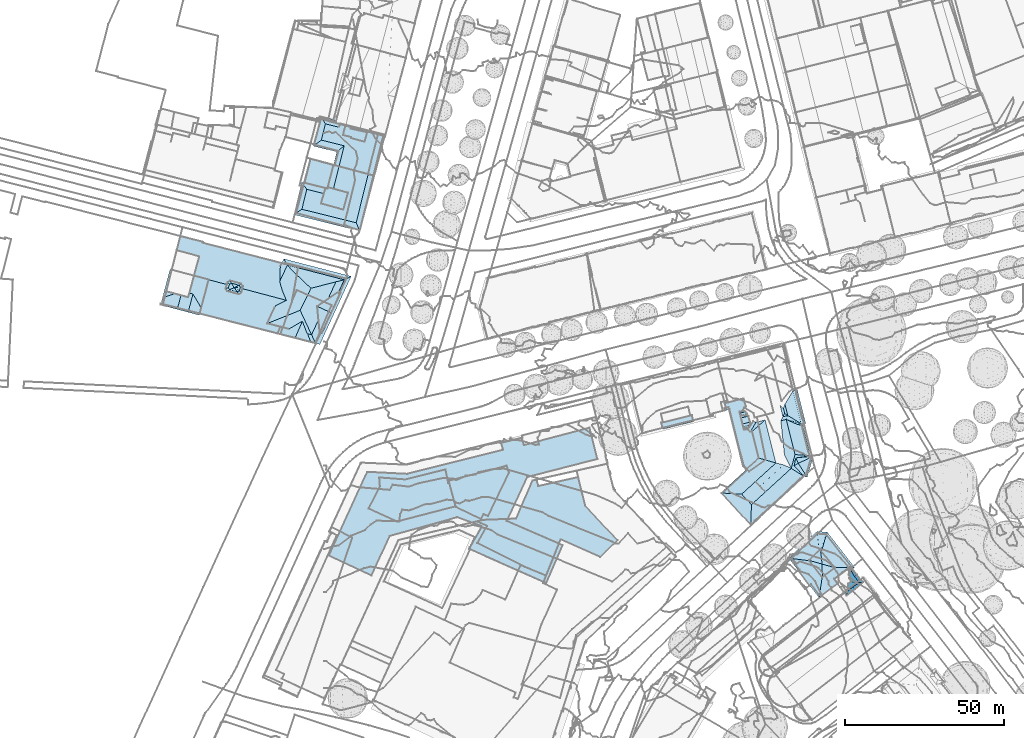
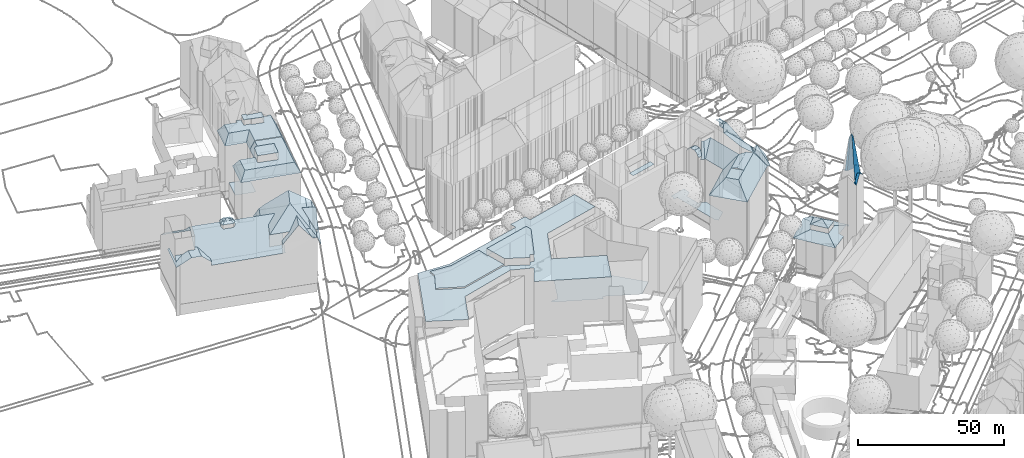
# Not in any storey, part 63 of 494: 18 roofs.
"""IFC2X3 model written with IfcOpenShell, lengths in metres."""

from ifc_helpers import new_model, si_unit, frame, origin_with_axes, place, context, subcontext, project, faceted_brep, element, save


model = new_model("IFC2X3")

# Units and contexts
model_context = context("Model", 3, precision=1e-05, world=origin_with_axes())
body_context = subcontext(model_context, "Body", "Model", "MODEL_VIEW")
ifc_project = project(units=[si_unit("AREAUNIT", "SQUARE_METRE"), si_unit("LENGTHUNIT", "METRE")], contexts=[model_context])

# Roofs
roof_1_placement = place(None, frame((-19.7342679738, 221.4617160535, 529.9572), z_axis=(0.0, 0.0, 1.0), x_axis=(1.0, 0.0, 0.0)))
element("IfcRoof", 1, at=roof_1_placement, Name="Roof 3", ShapeType="NOTDEFINED", context=body_context, shape_type="Brep", body=[
    faceted_brep([(81.6960000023, 72.4179999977, 30.7921), (81.0179999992, 74.811499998, 30.7921), (75.1140000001, 70.9530999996, 30.7921), (104.7769999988, 68.0557000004, 30.792), (102.2939999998, 77.878899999, 30.792), (57.0100000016, 64.7841999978, 30.7921), (76.2980000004, 65.9159999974, 30.7921), (82.7039999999, 62.3525999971, 30.792), (74.4360000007, 73.4091999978, 30.7921), (76.9759999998, 63.7109999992, 30.7921), (93.8509999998, 40.9062999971, 30.792), (76.2760000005, 48.5654999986, 30.792), (88.6739999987, 28.995099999, 30.792), (64.7349999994, 40.3495999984, 30.792), (70.3790000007, 50.1122999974, 30.792), (68.9609999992, 50.686499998, 30.792), (68.1649999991, 49.1210999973, 30.792), (60.7349999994, 49.7353999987, 30.7921), (68.4460000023, 46.8564999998, 30.792), (64.4039999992, 39.7743999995, 30.792), (44.868999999, 63.3554999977, 30.7921), (44.3000000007, 61.5976999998, 30.7921), (58.1950000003, 60.5790999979, 30.7921), (58.0269999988, 61.1943999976, 30.7921), (57.9120000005, 60.441399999, 30.7921), (36.1889999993, 62.2168000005, 30.7921), (32.3900000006, 64.0020000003, 30.7921), (36.4120000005, 59.4501999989, 30.7921), (32.8289999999, 52.4316999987, 30.7921), (20.3310000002, 37.6767999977, 30.7921), (60.2850000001, 52.9443999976, 30.7921), (60.2250000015, 53.1640999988, 30.7921), (41.7300000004, 48.3495999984, 30.7921), (39.4550000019, 43.8388999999, 30.7921), (33.7100000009, 31.3662, 30.7921)], [[[0, 1, 2]], [[3, 4, 0]], [[2, 5, 6]], [[7, 0, 6]], [[6, 0, 2]], [[8, 2, 1]], [[9, 7, 6]], [[7, 3, 0]], [[10, 11, 12]], [[12, 11, 13]], [[9, 11, 7]], [[14, 15, 16]], [[11, 9, 14]], [[16, 17, 18]], [[13, 11, 18]], [[16, 18, 14]], [[18, 11, 14]], [[12, 13, 19]], [[20, 21, 5]], [[2, 20, 5]], [[22, 23, 24]], [[24, 23, 5]], [[25, 26, 27]], [[25, 21, 20]], [[28, 27, 26]], [[26, 29, 28]], [[25, 20, 26]], [[30, 31, 32]], [[17, 16, 30]], [[32, 17, 30]], [[33, 29, 34]], [[33, 32, 28]], [[28, 29, 33]], [[17, 32, 33]], [[23, 6, 5]]]),
])
roof_2_placement = place(None, frame((-19.7342679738, 221.4617160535, 529.9572), z_axis=(0.0, 0.0, 1.0), x_axis=(1.0, 0.0, 0.0)))
element("IfcRoof", 2, at=roof_2_placement, Name="Roof 5", ShapeType="NOTDEFINED", context=body_context, shape_type="Brep", body=[
    faceted_brep([(36.4120000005, 59.4501999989, 31.314), (32.8289999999, 52.4316999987, 31.314), (44.3000000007, 61.5976999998, 31.314), (36.1889999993, 62.2168000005, 31.314), (57.9120000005, 60.441399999, 31.314), (41.7300000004, 48.3495999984, 31.314), (60.2250000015, 53.1640999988, 31.314), (58.1950000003, 60.5790999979, 31.314), (57.0100000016, 64.7841999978, 31.314)], [[[0, 1, 2]], [[2, 3, 0]], [[4, 1, 5]], [[4, 6, 7]], [[4, 2, 1]], [[4, 8, 2]], [[4, 5, 6]]]),
])
roof_3_placement = place(None, frame((-19.7342679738, 221.4617160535, 529.9572), z_axis=(0.0, 0.0, 1.0), x_axis=(1.0, 0.0, 0.0)))
element("IfcRoof", 3, at=roof_3_placement, Name="Roof 10", ShapeType="NOTDEFINED", context=body_context, shape_type="Brep", body=[
    faceted_brep([(76.2760000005, 48.5654000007, 12.6718), (79.2180000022, 49.3017999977, 12.6718), (76.5700000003, 49.1963, 12.6718), (92.6770000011, 41.4179999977, 12.6717), (84.3440000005, 61.2782999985, 12.6718), (86.2050000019, 59.5146999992, 12.6718), (85.7230000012, 61.5859999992, 12.6718), (93.2239999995, 42.7812999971, 12.6717), (100.9539999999, 53.3720999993, 12.6717), (105.5940000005, 37.2460999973, 12.6717), (111.1070000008, 42.5205000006, 12.6717), (98.7540000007, 62.3506000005, 12.6718)], [[[0, 1, 2]], [[1, 0, 3]], [[4, 5, 6]], [[5, 4, 1]], [[1, 7, 5]], [[8, 5, 7]], [[7, 9, 10]], [[11, 5, 8]], [[10, 8, 7]], [[7, 1, 3]]]),
])
roof_4_placement = place(None, frame((-19.7342679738, 221.4617160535, 529.9572), z_axis=(0.0, 0.0, 1.0), x_axis=(1.0, 0.0, 0.0)))
element("IfcRoof", 4, at=roof_4_placement, Name="Roof 11", ShapeType="NOTDEFINED", context=body_context, shape_type="Brep", body=[
    faceted_brep([(70.3790000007, 50.1122999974, 33.8358), (76.9759999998, 63.7109999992, 33.8358), (68.9609999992, 50.686499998, 33.8358), (58.0269999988, 61.1943999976, 33.8358), (76.2980000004, 65.9159999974, 33.8358), (60.2850000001, 52.9443999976, 33.8358), (68.1649999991, 49.1210999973, 33.8358)], [[[0, 1, 2]], [[3, 1, 4]], [[5, 2, 1]], [[6, 2, 5]], [[5, 1, 3]]]),
])
roof_5_placement = place(None, frame((124.1537320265, 278.7713160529, 533.7988), z_axis=(0.0, 0.0, 1.0), x_axis=(1.0, 0.0, 0.0)))
element("IfcRoof", 5, at=roof_5_placement, Name="Roof 0", ShapeType="NOTDEFINED", context=body_context, shape_type="Brep", body=[
    faceted_brep([(19.3370000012, 26.6904000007, 33.2708), (18.3000000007, 27.6484000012, 32.8638), (19.1979999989, 24.0742000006, 32.8638), (19.7289999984, 25.123999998, 33.2708), (20.7019999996, 24.4521000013, 32.8638), (19.8040000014, 28.0253999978, 32.8638), (19.6579999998, 12.1132999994, 30.2961), (20.2050000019, 23.2274999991, 29.9171), (18.5320000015, 22.807599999, 30.2961), (21.7890000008, 7.8378999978, 29.9171), (22.9789999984, 12.1787, 29.9171), (22.7019999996, 8.6631000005, 29.2492), (9.0610000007, -9.5331999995, 24.8946), (9.0430000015, -10.009800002, 24.4946), (25.8390000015, 5.3046999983, 24.4946), (9.2870000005, -3.5615000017, 29.9171), (13.6950000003, 0.4580000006, 29.9171), (12.0219999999, 2.2080000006, 30.2961), (19.4120000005, 8.9433999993, 30.2961), (10.5749999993, 3.7197000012, 29.9171), (16.9589999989, 9.5351999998, 29.9171), (6.2129999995, -0.2675999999, 29.9171), (11.3390000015, 2.9228000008, 29.9171), (12.811999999, 1.3827999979, 29.9171), (0.0830000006, 0.0762000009, 24.8956), (-0.4070000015, 0.1035000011, 24.4946), (11.6229999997, 11.0702999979, 24.4946), (7.6840000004, 7.4794999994, 24.4946), (27.6830000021, 11.7705000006, 24.6986), (27.8819999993, 11.7998000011, 24.4946), (27.6339999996, 11.8183999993, 24.7686), (23.2470000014, 11.1142999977, 29.2492), (28.7580000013, 11.6796999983, 24.4946), (28.050999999, 11.6074000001, 25.1045), (23.7019999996, 21.6493999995, 26.4204), (25.3029999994, 21.7685999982, 25.7355), (24.8469999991, 21.9375, 26.4204), (26.1279999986, 21.4638999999, 24.4946), (25.1449999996, 21.3720999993, 24.8716), (25.4970000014, 21.3046999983, 24.4946), (26.2780000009, 22.2958999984, 24.4946), (25.8590000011, 22.1904000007, 25.0586), (24.0170000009, 9.4169999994, 31.5549), (28.1480000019, 11.3887000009, 25.4025), (26.4330000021, 5.5878999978, 25.4005), (26.7890000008, 5.0234000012, 24.4946), (22.2850000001, 32.1387000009, 26.4205), (8.9629999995, 19.3300999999, 24.4946), (10.686999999, 22.3407999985, 29.9171), (8.313000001, 20.2421999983, 25.1776), (9.8839999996, 22.6532999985, 29.9171), (7.7589999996, 20.1035000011, 24.4946), (13.5639999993, 23.0634999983, 29.9171), (9.5139999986, 19.4697000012, 24.4946), (23.2699999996, 32.6308999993, 25.0196), (23.6389999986, 32.8143999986, 24.4946)], [[[0, 1, 2]], [[2, 3, 0]], [[3, 4, 0]], [[5, 0, 4]], [[6, 7, 8]], [[2, 4, 3]], [[6, 9, 10]], [[10, 7, 6]], [[10, 9, 11]], [[12, 13, 14]], [[15, 12, 16]], [[14, 16, 12]], [[9, 16, 14]], [[17, 16, 18]], [[9, 18, 16]], [[19, 17, 20]], [[18, 20, 17]], [[19, 21, 22]], [[23, 21, 15]], [[22, 21, 23]], [[23, 15, 16]], [[24, 12, 21]], [[13, 24, 25]], [[12, 15, 21]], [[13, 12, 24]], [[26, 27, 20]], [[20, 27, 19]], [[24, 19, 27]], [[21, 19, 24]], [[24, 27, 25]], [[28, 29, 30]], [[10, 31, 28]], [[10, 28, 30]], [[32, 29, 33]], [[28, 31, 33]], [[28, 33, 29]], [[34, 35, 36]], [[35, 34, 37]], [[38, 39, 37]], [[38, 37, 34]], [[37, 40, 41]], [[41, 36, 35]], [[41, 35, 37]], [[42, 31, 11]], [[10, 11, 31]], [[31, 42, 43]], [[43, 32, 33]], [[43, 33, 31]], [[32, 43, 44]], [[44, 45, 32]], [[42, 44, 43]], [[44, 42, 14]], [[14, 45, 44]], [[14, 42, 11]], [[36, 4, 7]], [[36, 7, 34]], [[4, 36, 46]], [[46, 5, 4]], [[7, 2, 8]], [[7, 4, 2]], [[11, 9, 14]], [[47, 48, 49]], [[49, 48, 50]], [[51, 47, 49]], [[26, 20, 52]], [[52, 53, 26]], [[47, 53, 52]], [[52, 48, 47]], [[34, 7, 10]], [[38, 34, 30]], [[30, 39, 38]], [[29, 39, 30]], [[30, 34, 10]], [[41, 46, 36]], [[54, 41, 40]], [[54, 46, 41]], [[54, 40, 55]]]),
])
roof_6_placement = place(None, frame((124.1537320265, 278.7713160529, 533.7988), z_axis=(0.0, 0.0, 1.0), x_axis=(1.0, 0.0, 0.0)))
element("IfcRoof", 6, at=roof_6_placement, Name="Roof 1", ShapeType="NOTDEFINED", context=body_context, shape_type="Brep", body=[
    faceted_brep([(-19.0229999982, 22.1044999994, 26.9644), (-18.5350000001, 20.1591999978, 26.9644), (-9.3900000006, 24.5234000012, 26.9644), (-8.9010000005, 22.5780999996, 26.9644)], [[[0, 1, 2]], [[1, 3, 2]]]),
])
roof_7_placement = place(None, frame((124.1537320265, 278.7713160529, 533.7988), z_axis=(0.0, 0.0, 1.0), x_axis=(1.0, 0.0, 0.0)))
element("IfcRoof", 7, at=roof_7_placement, Name="Roof 2", ShapeType="NOTDEFINED", context=body_context, shape_type="Brep", body=[
    faceted_brep([(11.6229999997, 11.0702999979, 6.6973), (8.9629999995, 19.3300999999, 6.6973), (7.7589999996, 20.1035000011, 6.6973), (9.5139999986, 19.4697000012, 6.6973), (6.993999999, 19.9100999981, 6.6973), (7.8350000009, 7.6171999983, 6.6973), (6.9510000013, 8.4501999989, 6.6973), (2.381000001, 26.3975000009, 6.6973), (5.561999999, 25.6182000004, 6.6973), (6.3269999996, 25.8104999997, 6.6973), (6.9270000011, 29.7802999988, 6.6973), (7.0700000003, 26.8691000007, 6.6973), (7.5890000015, 27.1444999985, 6.6973), (0.9499999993, 28.2802999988, 6.6974), (1.3229999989, 26.7958999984, 6.6974), (1.0610000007, 26.1083999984, 6.6974), (0.9149999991, 26.6933000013, 6.6974)], [[[0, 1, 2]], [[1, 0, 3]], [[0, 2, 4]], [[5, 4, 6]], [[4, 5, 0]], [[7, 6, 4]], [[7, 4, 8]], [[9, 10, 8]], [[10, 11, 12]], [[7, 8, 10]], [[13, 7, 10]], [[7, 14, 15]], [[14, 16, 15]], [[7, 13, 14]], [[11, 10, 9]]]),
])
roof_8_placement = place(None, frame((124.1537320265, 278.7713160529, 533.7988), z_axis=(0.0, 0.0, 1.0), x_axis=(1.0, 0.0, 0.0)))
element("IfcRoof", 8, at=roof_8_placement, Name="Roof 3", ShapeType="NOTDEFINED", context=body_context, shape_type="Brep", body=[
    faceted_brep([(6.7340000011, 20.9452999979, 27.2494), (8.8500000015, 22.3935000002, 27.7623), (6.5179999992, 21.808600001, 27.7623), (8.8220000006, 21.4697000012, 27.2004), (8.3839999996, 24.2577999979, 27.7623), (5.8379999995, 24.5194999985, 27.2494), (6.0500000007, 23.6708999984, 27.7623), (7.9239999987, 25.0429999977, 27.1874), (5.6689999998, 25.1904000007, 26.5364), (7.4180000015, 25.6347999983, 26.5364), (6.993999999, 19.9100999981, 25.6465), (8.6400000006, 20.7793000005, 26.5364), (6.8839999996, 20.3486000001, 26.5364), (8.313000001, 20.2421999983, 25.6465), (5.561999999, 25.6182000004, 25.6465), (6.8790000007, 25.9501999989, 25.6465)], [[[0, 1, 2]], [[1, 0, 3]], [[4, 5, 6]], [[1, 4, 6]], [[6, 2, 1]], [[5, 4, 7]], [[8, 7, 9]], [[7, 8, 5]], [[10, 11, 12]], [[11, 10, 13]], [[12, 3, 0]], [[3, 12, 11]], [[14, 8, 9]], [[9, 15, 14]]]),
])
roof_9_placement = place(None, frame((140.4987320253, 222.5740160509, 530.262), z_axis=(0.0, 0.0, 1.0), x_axis=(1.0, 0.0, 0.0)))
element("IfcRoof", 9, at=roof_9_placement, Name="Roof 8", ShapeType="NOTDEFINED", context=body_context, shape_type="Brep", body=[
    faceted_brep([(26.9530000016, 28.1162, 38.8453), (26.1229999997, 30.6055000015, 40.8551), (25.3470000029, 29.9795000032, 40.8551), (28.143000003, 28.1905000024, 37.9304), (24.7580000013, 26.7432000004, 40.8551), (25.5170000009, 26.067400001, 40.8551), (23.0050000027, 25.1494000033, 38.8453), (22.9200000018, 24.004900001, 37.9304), (22.2920000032, 24.8496000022, 38.8803), (24.0830000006, 32.1660000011, 38.8453), (24.1420000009, 33.2149000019, 37.9304), (21.6850000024, 31.3408000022, 40.8551), (22.268000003, 30.5244000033, 40.8551), (24.3619999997, 28.4013999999, 55.1068), (23.5830000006, 28.5694000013, 56.7956), (23.432, 27.7998000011, 55.1068), (23.7030000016, 29.4199000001, 55.1068), (22.7719999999, 28.8155000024, 55.1068), (23.0050000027, 25.1494000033, 38.6453), (23.432, 27.7998000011, 54.9068), (24.7580000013, 26.7432000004, 40.6551), (24.3619999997, 28.4013999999, 54.9068), (26.9530000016, 28.1162, 38.6453), (23.7030000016, 29.4199000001, 54.9068), (24.0830000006, 32.1660000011, 38.6453), (25.3470000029, 29.9795000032, 40.6551), (22.268000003, 30.5244000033, 40.6551), (22.7719999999, 28.8155000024, 54.9068)], [[[0, 1, 2]], [[3, 1, 0]], [[0, 4, 5]], [[5, 3, 0]], [[6, 5, 4]], [[7, 5, 6]], [[7, 6, 8]], [[1, 9, 2]], [[1, 10, 9]], [[9, 11, 12]], [[10, 11, 9]], [[13, 14, 15]], [[16, 14, 13]], [[14, 16, 17]], [[15, 6, 4]], [[18, 19, 20]], [[0, 13, 4]], [[21, 22, 20]], [[4, 13, 15]], [[21, 20, 19]], [[9, 16, 2]], [[23, 24, 25]], [[13, 0, 2]], [[22, 21, 25]], [[13, 2, 16]], [[25, 21, 23]], [[16, 9, 12]], [[24, 23, 26]], [[16, 12, 17]], [[26, 23, 27]]]),
])
roof_10_placement = place(None, frame((145.991732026, 258.2215160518, 530.886), z_axis=(0.0, 0.0, 1.0), x_axis=(1.0, 0.0, 0.0)))
element("IfcRoof", 10, at=roof_10_placement, Name="Roof 0", ShapeType="NOTDEFINED", context=body_context, shape_type="Brep", body=[
    faceted_brep([(9.6840000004, -5.7841999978, 16.4304), (6.2820000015, -1.4580000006, 16.3844), (8.8370000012, -11.4657999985, 14.8316), (8.4140000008, -10.9228999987, 14.8266), (8.7170000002, -12.2675999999, 14.6056), (5.7950000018, -8.4600000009, 14.6036), (5.6420000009, -0.6435999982, 16.3794), (2.1710000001, -3.7373000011, 14.6026), (0.0500000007, 0.0469000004, 14.8386), (-0.8159999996, 0.1543000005, 14.6006), (9.7340000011, -5.8476999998, 16.3984), (10.2470000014, -5.4609999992, 16.4014), (9.443, -11.7188000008, 14.6096), (14.557, -7.8554999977, 14.6396), (13.7109999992, -6.4257999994, 15.2845), (13.0780000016, -3.3262000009, 16.3994), (14.8000000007, -7.7851999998, 14.6056), (19.057, -2.745099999, 14.7936), (19.8249999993, -2.6943999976, 14.5656), (15.5980000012, 1.746100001, 14.7896), (18.5789999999, -2.7753999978, 14.9355), (11.2369999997, 8.3623000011, 14.5756), (18.9869999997, -3.5205000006, 14.5446), (19.1130000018, -3.3955000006, 14.5476), (12.8000000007, -1.7216999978, 16.4294), (13.6390000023, -2.7324000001, 16.4104), (13.7259999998, -2.8378999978, 16.3534), (8.1720000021, 7.7098999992, 14.8376), (8.0800000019, 8.5449000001, 14.6006), (7.8339999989, 7.3916000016, 14.8386), (6.2950000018, 0.1561999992, 16.3314), (8.743999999, 2.5430000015, 16.3024), (5.569000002, -0.5507999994, 16.3374), (9.1350000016, 2.697300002, 16.2484), (9.4670000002, 2.2959000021, 16.4654), (10.9800000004, 7.6699000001, 14.7796), (11.0199999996, 7.6191000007, 14.8066), (9.0309999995, 2.822300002, 16.2154)], [[[0, 1, 2]], [[3, 4, 2]], [[3, 2, 1]], [[4, 3, 5]], [[6, 7, 5]], [[5, 3, 1]], [[6, 8, 7]], [[9, 7, 8]], [[5, 1, 6]], [[10, 0, 2]], [[11, 10, 12]], [[2, 4, 12]], [[13, 11, 12]], [[12, 10, 2]], [[11, 14, 15]], [[13, 14, 11]], [[16, 14, 13]], [[17, 18, 19]], [[17, 19, 20]], [[19, 18, 21]], [[22, 23, 17]], [[17, 20, 22]], [[18, 17, 23]], [[19, 21, 24]], [[25, 20, 19]], [[25, 19, 24]], [[15, 14, 26]], [[25, 26, 20]], [[20, 26, 14]], [[27, 28, 29]], [[30, 31, 27]], [[30, 27, 29]], [[29, 28, 9]], [[30, 29, 8]], [[8, 32, 30]], [[6, 32, 8]], [[8, 29, 9]], [[33, 34, 35]], [[36, 21, 35]], [[36, 35, 34]], [[37, 33, 35]], [[31, 37, 27]], [[35, 21, 27]], [[28, 27, 21]], [[35, 27, 37]], [[34, 24, 36]], [[21, 36, 24]]]),
])
roof_11_placement = place(None, frame((145.991732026, 258.2215160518, 530.886), z_axis=(0.0, 0.0, 1.0), x_axis=(1.0, 0.0, 0.0)))
element("IfcRoof", 11, at=roof_11_placement, Name="Roof 1", ShapeType="NOTDEFINED", context=body_context, shape_type="Brep", body=[
    faceted_brep([(9.7340000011, -5.8476999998, 18.4752), (13.7259999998, -2.8378999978, 18.4752), (9.7710000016, -5.2012000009, 18.7152), (9.6610000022, -1.7177999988, 19.9861), (5.569000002, -0.5507999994, 18.4752), (9.0309999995, 2.822300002, 18.4752), (9.2850000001, 1.6719000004, 18.8632)], [[[0, 1, 2]], [[2, 1, 3]], [[4, 0, 3]], [[3, 0, 2]], [[5, 4, 3]], [[5, 3, 6]], [[1, 6, 3]], [[1, 5, 6]]]),
])
roof_12_placement = place(None, frame((-52.3232679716, 338.0819160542, 533.653), z_axis=(0.0, 0.0, 1.0), x_axis=(1.0, 0.0, 0.0)))
element("IfcRoof", 12, at=roof_12_placement, Name="Roof 0", ShapeType="NOTDEFINED", context=body_context, shape_type="Brep", body=[
    faceted_brep([(36.7739999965, -9.1153000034, 18.8612), (12.3039999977, -2.8438000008, 18.6792), (12.2969999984, -2.8712000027, 18.6522), (3.5389999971, 10.9090999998, 20.638), (2.9349999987, 11.0692999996, 20.2811), (1.4479999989, 2.6737999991, 20.689), (1.4229999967, 2.5770999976, 20.689), (0.0659999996, 0.2469999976, 20.2811), (6.3899999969, 2.8944999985, 23.3848), (4.3549999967, 3.4461999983, 22.1809), (5.3329999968, -1.0928000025, 23.3848), (0.0, -0.0001000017, 20.2811), (5.2299999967, -1.4805000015, 23.3848), (-0.0230000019, -0.0870000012, 20.2811), (1.3909999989, 2.4520999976, 20.69), (8.6959999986, 2.2694999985, 23.3848), (10.1679999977, 3.3426999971, 23.3848), (9.0659999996, 3.6356999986, 23.3848), (8.6489999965, -2.3868000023, 23.3848), (12.7779999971, -1.0557000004, 20.2811), (12.2969999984, -2.8692000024, 20.2811), (12.1769999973, -3.322300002, 20.2811), (1.4229999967, 2.5770999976, 20.802), (1.818, 4.1336999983, 22.1929), (24.7559999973, 4.3768999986, 29.1922), (23.1099999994, 5.3641999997, 30.0001), (24.0939999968, 4.0194999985, 29.1922), (21.6689999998, 4.677699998, 29.1922), (25.0549999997, 5.4744999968, 29.1922), (24.6559999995, 6.0936999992, 29.1922), (25.3789999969, 6.557599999, 28.2473), (25.9210000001, 5.7498999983, 28.2473), (25.3599999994, 3.677699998, 28.2473), (24.5409999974, 3.2498999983, 28.2473), (21.3139999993, 5.3094999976, 29.1922), (20.5059999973, 4.9930999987, 28.2473), (20.9469999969, 4.2049999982, 28.2473), (21.8259999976, 7.5194999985, 28.2473), (21.0669999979, 7.0662999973, 28.2473), (22.1989999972, 6.7596999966, 29.1922), (21.6109999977, 6.4090999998, 29.1922), (47.4509999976, -9.4825000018, 25.8345), (45.9179999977, -9.0948000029, 25.8345), (46.123999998, -9.7833000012, 25.2535), (52.5719999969, 1.6668999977, 25.8345), (55.4959999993, 3.5487999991, 23.7827), (55.1049999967, 7.1805999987, 25.8345), (55.7469999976, 3.7000999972, 23.6017), (57.7309999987, 7.811499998, 23.5067), (55.8249999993, 3.6629999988, 23.5067), (48.6539999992, -11.9483000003, 23.5067), (50.0689999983, -8.6358000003, 23.6127), (50.1569999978, -8.6768000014, 23.5067), (49.7469999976, -5.6465000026, 25.3025), (10.5339999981, 9.0536999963, 28.2463), (20.8640000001, 6.3143999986, 28.2463), (20.9229999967, 6.5330999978, 28.0473), (21.0669999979, 7.0662999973, 27.5604), (21.8259999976, 7.5194999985, 27.0044), (6.2289999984, 21.5037999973, 18.6292), (5.0939999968, 17.0340999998, 22.6869), (11.7569999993, 20.0799999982, 18.5932), (6.2390000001, 21.5438999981, 18.5932), (12.175999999, 15.1170999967, 22.7198), (37.6169999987, 12.0243999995, 19.6121), (25.3789999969, 6.557599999, 27.0214), (25.7839999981, 5.244099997, 28.0473), (25.7249999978, 5.0252999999, 28.2463), (41.3399999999, 0.8846999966, 28.2463), (25.9210000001, 5.7498999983, 27.5864), (37.5129999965, 7.4725999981, 23.5067), (37.7159999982, 12.2332999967, 19.4121), (43.2639999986, 11.7244999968, 18.5932), (37.6109999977, 7.681599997, 23.3068), (39.0649999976, 12.8387999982, 18.5932), (25.6649999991, 4.8035999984, 28.0473), (25.3599999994, 3.677699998, 27.0374), (37.7029999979, -9.3536000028, 18.8682), (24.5409999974, 3.2498999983, 26.4975), (20.8029999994, 6.0926999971, 28.0473), (20.5059999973, 4.9930999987, 27.0604), (20.9469999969, 4.2049999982, 26.4985), (12.7179999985, -1.2803000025, 20.0811), (48.060999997, -11.9952000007, 23.1947), (48.7039999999, -12.1592000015, 23.1647), (46.9579999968, -11.7139000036, 23.3277), (46.8519999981, -11.6006000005, 23.5067), (58.3640000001, 8.1317999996, 22.3698), (59.9009999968, 8.9080999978, 19.6121), (38.737999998, 14.4051999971, 19.6121), (39.5859999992, 12.9266999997, 22.5638), (39.856999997, 12.4539999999, 23.5067), (50.0649999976, -12.505900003, 19.6121), (50.8229999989, -8.6231000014, 22.0088), (54.5039999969, -0.822300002, 21.7809), (50.4100000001, -8.7950000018, 22.7898), (56.3699999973, 3.4090999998, 21.9609), (50.5529999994, -8.4932000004, 22.7788), (49.6539999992, -4.6993000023, 25.8395), (38.0779999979, 13.0037999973, 19.6121), (37.8969999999, 12.620099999, 19.4211), (38.0779999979, 13.0037999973, 19.4121)], [[[0, 1, 2]], [[3, 4, 5]], [[6, 5, 7]], [[8, 9, 10]], [[5, 4, 7]], [[10, 7, 11]], [[12, 11, 13]], [[7, 10, 14]], [[10, 11, 12]], [[14, 10, 9]], [[7, 14, 6]], [[15, 8, 10]], [[16, 17, 15]], [[15, 18, 16]], [[10, 12, 18]], [[10, 18, 15]], [[19, 18, 20]], [[18, 19, 16]], [[18, 21, 20]], [[14, 9, 22]], [[23, 22, 9]], [[24, 25, 26]], [[27, 26, 25]], [[25, 28, 29]], [[28, 25, 24]], [[28, 30, 29]], [[30, 28, 31]], [[32, 26, 33]], [[26, 32, 24]], [[27, 34, 35]], [[35, 36, 27]], [[37, 38, 39]], [[40, 39, 38]], [[40, 25, 39]], [[29, 39, 25]], [[25, 40, 34]], [[25, 34, 27]], [[41, 42, 43]], [[44, 45, 46]], [[47, 48, 46]], [[48, 47, 49]], [[47, 46, 45]], [[41, 50, 51]], [[51, 50, 52]], [[51, 53, 41]], [[54, 55, 56]], [[56, 57, 54]], [[58, 54, 57]], [[59, 60, 61]], [[61, 62, 59]], [[61, 63, 64]], [[63, 61, 60]], [[63, 58, 65]], [[54, 58, 63]], [[66, 67, 68]], [[68, 69, 66]], [[70, 64, 63]], [[64, 71, 61]], [[69, 68, 65]], [[72, 71, 73]], [[70, 68, 73]], [[71, 74, 61]], [[74, 71, 72]], [[68, 72, 73]], [[68, 70, 65]], [[70, 63, 65]], [[68, 67, 75]], [[75, 76, 68]], [[0, 77, 68]], [[78, 68, 76]], [[19, 0, 78]], [[0, 68, 78]], [[79, 55, 54]], [[79, 54, 80]], [[54, 81, 80]], [[78, 81, 16]], [[81, 54, 16]], [[1, 0, 82]], [[82, 0, 19]], [[19, 78, 16]], [[54, 17, 16]], [[36, 26, 27]], [[36, 33, 26]], [[40, 38, 55]], [[55, 35, 34]], [[55, 34, 40]], [[29, 30, 37]], [[37, 39, 29]], [[50, 83, 84]], [[83, 50, 85]], [[86, 85, 50]], [[50, 41, 86]], [[43, 86, 41]], [[87, 88, 89]], [[48, 87, 90]], [[48, 90, 91]], [[90, 87, 89]], [[92, 93, 84]], [[92, 94, 93]], [[50, 84, 52]], [[95, 52, 84]], [[93, 95, 84]], [[94, 88, 96]], [[87, 96, 88]], [[92, 88, 94]], [[49, 96, 87]], [[93, 97, 95]], [[87, 48, 49]], [[53, 98, 41]], [[90, 70, 91]], [[99, 90, 89]], [[64, 70, 90]], [[64, 90, 99]], [[24, 32, 67]], [[67, 31, 28]], [[67, 28, 24]], [[71, 100, 101]]]),
])
roof_13_placement = place(None, frame((-52.3232679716, 338.0819160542, 533.653), z_axis=(0.0, 0.0, 1.0), x_axis=(1.0, 0.0, 0.0)))
element("IfcRoof", 13, at=roof_13_placement, Name="Roof 1", ShapeType="NOTDEFINED", context=body_context, shape_type="Brep", body=[
    faceted_brep([(41.3429999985, 10.7557999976, 25.8345), (43.8509999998, -1.7706000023, 32.9548), (47.2589999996, 5.1395999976, 32.9548), (47.4509999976, -9.4825000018, 25.8345), (39.5329999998, 1.3641999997, 28.0463), (33.4780000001, -5.9571000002, 25.8345), (36.1079999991, -0.3702000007, 25.8345), (38.300999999, 4.2918999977, 25.8345), (49.6509999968, -4.6983000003, 25.8365), (52.6229999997, 1.7782999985, 25.7495), (49.6529999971, -4.6895000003, 25.8345), (53.7189999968, -2.6016000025, 28.4052), (55.5639999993, 3.7850999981, 23.8127), (49.2419999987, -0.5303000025, 28.4052), (56.3699999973, 3.4090999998, 23.7627), (54.5039999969, -0.822300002, 27.0314), (50.0409999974, -8.6231000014, 23.8127), (50.4100000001, -8.7950000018, 23.7887), (50.8209999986, -8.9883000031, 23.7627), (40.2739999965, -7.6710000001, 25.8345), (40.1169999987, -7.6319000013, 25.6345), (42.2589999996, -10.5167000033, 29.5431), (44.5579999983, -5.2081000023, 29.5431), (36.7729999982, -9.1172000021, 22.5208), (37.7039999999, -7.0235000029, 22.5488), (47.3029999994, -11.8018000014, 23.0857), (47.1719999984, -11.6622000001, 23.3067), (46.3939999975, -9.7217000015, 25.1715), (46.2299999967, -9.1739000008, 25.6345), (46.0739999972, -9.134800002, 25.8345), (55.1049999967, 7.1805999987, 25.8345), (57.7309999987, 7.811499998, 23.5067), (39.856999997, 12.4539999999, 23.5067), (37.4149999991, 7.2635999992, 23.5067), (49.5159999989, -3.3096000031, 26.6284), (52.5719999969, 1.6668999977, 25.8345), (49.2589999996, -0.5381000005, 28.2053), (49.2419999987, -0.5303000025, 28.2263), (52.6229999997, 1.7782999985, 25.8345)], [[[0, 1, 2]], [[3, 2, 1]], [[1, 4, 5]], [[4, 1, 0]], [[5, 4, 6]], [[0, 7, 4]], [[8, 9, 10]], [[11, 12, 13]], [[14, 12, 15]], [[11, 15, 12]], [[11, 13, 16]], [[17, 18, 11]], [[11, 16, 17]], [[19, 20, 21]], [[22, 19, 21]], [[23, 21, 20]], [[23, 20, 24]], [[21, 25, 26]], [[21, 26, 27]], [[27, 28, 29]], [[29, 22, 21]], [[27, 29, 21]], [[30, 31, 32]], [[32, 0, 30]], [[0, 32, 33]], [[33, 7, 0]], [[30, 0, 2]], [[3, 8, 34]], [[35, 36, 34]], [[35, 34, 10]], [[10, 34, 8]], [[34, 37, 3]], [[37, 38, 30]], [[37, 30, 2]], [[37, 2, 3]], [[1, 22, 3]], [[22, 1, 19]], [[3, 22, 29]], [[19, 1, 5]]]),
])
roof_14_placement = place(None, frame((-4.0472679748, 388.3377160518, 535.5509), z_axis=(0.0, 0.0, 1.0), x_axis=(1.0, 0.0, 0.0)))
element("IfcRoof", 14, at=roof_14_placement, Name="Roof 0", ShapeType="NOTDEFINED", context=body_context, shape_type="Brep", body=[
    faceted_brep([(11.5090000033, 5.0390999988, 27.6224), (9.1510000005, 2.9882999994, 27.6224), (11.6750000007, 2.3682000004, 27.7023), (12.2939999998, 4.8467000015, 27.7024), (9.5560000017, 4.9618999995, 27.6224), (9.9150000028, 6.0732000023, 27.6224), (11.6579999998, 5.6436000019, 27.6224), (15.9140000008, 0.8984000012, 27.7823), (16.6560000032, 3.8612999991, 27.7824), (11.5880000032, 2.0604999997, 27.7823)], [[[0, 1, 2]], [[0, 2, 3]], [[4, 0, 5]], [[0, 4, 1]], [[6, 5, 0]], [[3, 2, 7]], [[7, 8, 3]], [[7, 2, 9]]]),
])
roof_15_placement = place(None, frame((-4.0472679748, 388.3377160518, 535.5509), z_axis=(0.0, 0.0, 1.0), x_axis=(1.0, 0.0, 0.0)))
element("IfcRoof", 15, at=roof_15_placement, Name="Roof 1", ShapeType="NOTDEFINED", context=body_context, shape_type="Brep", body=[
    faceted_brep([(18.632000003, 3.6015999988, 25.4786), (15.9140000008, 0.8984000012, 25.4785), (20.1870000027, 3.6581999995, 25.4786), (16.9740000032, -9.2813000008, 25.4785), (16.6560000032, 3.8612999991, 25.4786), (11.620000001, 5.4912, 25.4786), (9.4260000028, -0.308600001, 25.4785), (12.2939999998, 4.8467000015, 25.4786), (7.8080000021, -6.8262000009, 25.4785), (11.5880000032, 2.0604999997, 25.4785), (9.1510000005, 2.9882999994, 25.4786), (11.6750000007, 2.3682000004, 25.4785), (2.268000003, 1.4686999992, 25.4785), (7.870000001, 5.5155999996, 25.4786), (11.5090000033, 5.0390999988, 25.4786), (9.5560000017, 4.9618999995, 25.4786), (3.5400000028, 6.5908000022, 25.4786), (9.1540000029, 6.1561999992, 25.4786), (18.7590000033, 4.0117000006, 25.4786), (9.8790000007, 5.9600000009, 25.4786), (9.2180000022, 6.3808999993, 25.4786), (8.1500000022, 6.6464999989, 25.4786), (6.4869999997, -6.4716999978, 22.8107), (7.3990000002, -1.9824000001, 22.4248), (6.0830000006, -6.3642999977, 21.9948), (7.1130000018, -2.2177999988, 21.9948), (0.1579999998, -0.0419999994, 22.6238), (-0.307, -0.375, 21.9948), (2.4630000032, 8.2743999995, 23.0179), (2.0150000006, 8.9736000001, 21.995), (7.8969999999, 5.6240000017, 25.2786), (7.4340000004, 6.6191000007, 23.7488), (8.0990000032, 6.4404000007, 23.7738), (6.8440000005, 7.1660000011, 23.0539), (6.9960000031, 7.7373000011, 21.995), (20.1900000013, 3.6572000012, 25.2806), (16.9740000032, -9.2813000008, 25.2955), (16.9770000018, -9.2822000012, 25.2805), (18.6650000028, -9.7353999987, 21.9948), (20.9649999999, 2.9736000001, 23.5608), (21.7670000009, 2.7578000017, 21.9949), (20.8500000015, 3.004900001, 23.7848), (20.944000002, 3.4697000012, 23.8208), (20.1871000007, 3.6581999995, 25.2956)], [[[0, 1, 2]], [[2, 1, 3]], [[0, 4, 1]], [[4, 0, 5]], [[6, 3, 1]], [[4, 5, 7]], [[8, 3, 6]], [[1, 9, 6]], [[10, 9, 11]], [[6, 10, 12]], [[10, 6, 9]], [[12, 10, 13]], [[5, 14, 7]], [[13, 10, 15]], [[12, 13, 16]], [[17, 13, 15]], [[0, 2, 18]], [[17, 15, 19]], [[20, 21, 17]], [[17, 21, 13]], [[22, 8, 23]], [[24, 22, 25]], [[22, 23, 25]], [[23, 8, 6]], [[26, 27, 25]], [[12, 26, 25]], [[23, 6, 12]], [[23, 12, 25]], [[28, 29, 26]], [[16, 28, 12]], [[26, 12, 28]], [[27, 26, 29]], [[16, 30, 31]], [[32, 31, 30]], [[13, 30, 16]], [[33, 34, 28]], [[34, 29, 28]], [[33, 28, 16]], [[33, 16, 31]], [[35, 36, 37]], [[38, 39, 37]], [[38, 40, 39]], [[41, 42, 35]], [[43, 36, 35]], [[35, 37, 41]], [[39, 41, 37]]]),
])
roof_16_placement = place(None, frame((-9.7142679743, 366.807416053, 535.5508), z_axis=(0.0, 0.0, 1.0), x_axis=(1.0, 0.0, 0.0)))
element("IfcRoof", 16, at=roof_16_placement, Name="Roof 0", ShapeType="NOTDEFINED", context=body_context, shape_type="Brep", body=[
    faceted_brep([(9.0879999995, 7.4023999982, 28.1973), (7.8379999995, 3.0029999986, 28.1433), (14.876000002, 1.0830000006, 28.2603), (16.3330000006, 6.3975000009, 28.3243), (10.0859999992, 8.1035000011, 28.2203)], [[[0, 1, 2]], [[0, 3, 4]], [[3, 0, 2]]]),
])
roof_17_placement = place(None, frame((-9.7142679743, 366.807416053, 535.5508), z_axis=(0.0, 0.0, 1.0), x_axis=(1.0, 0.0, 0.0)))
element("IfcRoof", 17, at=roof_17_placement, Name="Roof 1", ShapeType="NOTDEFINED", context=body_context, shape_type="Brep", body=[
    faceted_brep([(1.7950000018, 1.2608000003, 25.2956), (7.8379999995, 3.0029999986, 25.2956), (3.3489999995, 7.5205000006, 25.2956), (14.876000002, 1.0830000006, 25.2956), (8.7410000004, 6.1816999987, 25.2956), (18.8599999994, -2.9774999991, 25.2956), (16.3330000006, 6.3975000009, 25.2956), (22.6410000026, 12.2480999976, 25.2956), (13.4750000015, 14.7040999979, 25.2956), (11.7250000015, 7.6552999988, 25.2956), (2.3720000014, 8.8876999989, 23.2498), (0.0260000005, 0.0966999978, 22.9958), (1.7719999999, 9.7256000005, 21.9949), (-0.7449999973, -0.4111000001, 21.9949), (19.9059999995, -5.3115000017, 22.3209), (20.0210000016, -5.567400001, 21.9949), (20.3120000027, -4.3955000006, 21.9949), (24.3320000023, 11.7949000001, 21.9949), (10.0859999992, 8.1035000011, 22.1559), (12.1539999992, 15.058600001, 22.7669), (9.9770000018, 8.0273999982, 21.9949), (11.7369999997, 15.1103999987, 21.9949), (11.751000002, 15.1660000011, 21.9949), (2.5439999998, 9.5331999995, 21.9949), (9.0879999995, 7.4023999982, 22.9158), (9.620000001, 7.7763999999, 21.9949)], [[[0, 1, 2]], [[1, 0, 3]], [[4, 2, 1]], [[3, 5, 6]], [[5, 3, 0]], [[6, 7, 8]], [[7, 6, 5]], [[6, 8, 9]], [[10, 0, 2]], [[11, 10, 12]], [[11, 0, 10]], [[13, 11, 12]], [[11, 13, 14]], [[0, 11, 5]], [[14, 5, 11]], [[15, 14, 13]], [[15, 16, 14]], [[14, 16, 17]], [[5, 17, 7]], [[17, 5, 14]], [[18, 9, 19]], [[20, 18, 21]], [[19, 21, 18]], [[22, 21, 19]], [[19, 9, 8]], [[12, 10, 23]], [[23, 10, 24]], [[2, 4, 24]], [[25, 23, 24]], [[24, 10, 2]]]),
])
roof_18_placement = place(None, frame((-9.7142679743, 366.807416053, 535.5508), z_axis=(0.0, 0.0, 1.0), x_axis=(1.0, 0.0, 0.0)))
element("IfcRoof", 18, at=roof_18_placement, Name="Roof 2", ShapeType="NOTDEFINED", context=body_context, shape_type="Brep", body=[
    faceted_brep([(12.1970000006, 15.2168000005, 9.5111), (4.5789999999, 17.1094000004, 9.5111), (11.7369999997, 15.1103999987, 9.5111), (4.5540000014, 17.0351999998, 9.5111), (9.620000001, 7.7763999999, 9.5111), (9.9770000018, 8.0273999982, 9.5111), (12.1390000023, 15.0020000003, 9.5111), (2.688000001, 9.4970999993, 9.5111)], [[[0, 1, 2]], [[2, 1, 3]], [[2, 3, 4]], [[2, 4, 5]], [[2, 6, 0]], [[4, 3, 7]]]),
])

save(model, "model.ifc")
